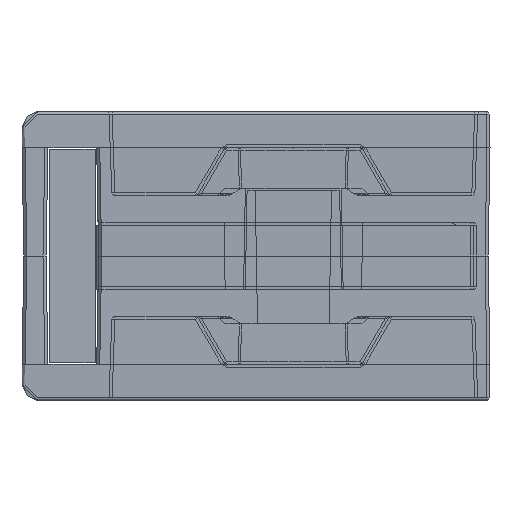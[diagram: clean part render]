
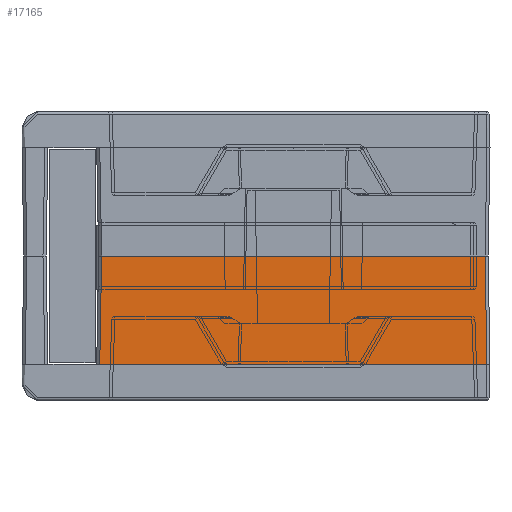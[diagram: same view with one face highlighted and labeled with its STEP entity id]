
A CAD part, front view. The second image highlights one B-rep face of the part: STEP entity #17165.
In plain terms, the highlighted planar face has unit normal (0, -1, 0.018).
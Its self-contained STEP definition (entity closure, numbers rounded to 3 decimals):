
#8947 = FACE_OUTER_BOUND ( 'NONE', #19145, .T. ) ;
#10275 = AXIS2_PLACEMENT_3D ( 'NONE', #24786, #24792, #24793 ) ;
#17165 = ADVANCED_FACE ( 'NONE', ( #8947 ), #24783, .T. ) ;
#19145 = EDGE_LOOP ( 'NONE', ( #25653, #25655, #25657, #25659 ) ) ;
#23288 = VERTEX_POINT ( 'NONE', #38833 ) ;
#23289 = VERTEX_POINT ( 'NONE', #38834 ) ;
#23290 = VERTEX_POINT ( 'NONE', #38835 ) ;
#23291 = VERTEX_POINT ( 'NONE', #38836 ) ;
#24783 = PLANE ( 'NONE',  #10275 ) ;
#24786 = CARTESIAN_POINT ( 'NONE',  ( -16.1, -26.75, 2.4 ) ) ;
#24792 = DIRECTION ( 'NONE',  ( 0., -1., 0.017 ) ) ;
#24793 = DIRECTION ( 'NONE',  ( 0., -0.017, -1. ) ) ;
#25653 = ORIENTED_EDGE ( 'NONE', *, *, #28456, .F. ) ;
#25655 = ORIENTED_EDGE ( 'NONE', *, *, #28455, .T. ) ;
#25657 = ORIENTED_EDGE ( 'NONE', *, *, #28440, .F. ) ;
#25659 = ORIENTED_EDGE ( 'NONE', *, *, #28458, .T. ) ;
#28440 = EDGE_CURVE ( 'NONE', #23291, #23290, #39573, .T. ) ;
#28455 = EDGE_CURVE ( 'NONE', #23288, #23290, #39576, .T. ) ;
#28456 = EDGE_CURVE ( 'NONE', #23288, #23289, #39578, .T. ) ;
#28458 = EDGE_CURVE ( 'NONE', #23291, #23289, #39595, .T. ) ;
#38833 = CARTESIAN_POINT ( 'NONE',  ( -12.576, -26.626, 9.5 ) ) ;
#38834 = CARTESIAN_POINT ( 'NONE',  ( 12.576, -26.626, 9.5 ) ) ;
#38835 = CARTESIAN_POINT ( 'NONE',  ( -12.7, -26.75, 2.4 ) ) ;
#38836 = CARTESIAN_POINT ( 'NONE',  ( 12.7, -26.75, 2.4 ) ) ;
#39396 = CARTESIAN_POINT ( 'NONE',  ( -16.1, -26.75, 2.4 ) ) ;
#39397 = DIRECTION ( 'NONE',  ( -1., 0., 0. ) ) ;
#39406 = DIRECTION ( 'NONE',  ( -0.017, -0.017, -1. ) ) ;
#39409 = CARTESIAN_POINT ( 'NONE',  ( -12.701, -26.751, 2.341 ) ) ;
#39573 = LINE ( 'NONE', #39396, #39574 ) ;
#39574 = VECTOR ( 'NONE', #39397, 1000. ) ;
#39576 = LINE ( 'NONE', #39409, #39591 ) ;
#39578 = LINE ( 'NONE', #40500, #39593 ) ;
#39591 = VECTOR ( 'NONE', #39406, 1000. ) ;
#39593 = VECTOR ( 'NONE', #40502, 1000. ) ;
#39595 = LINE ( 'NONE', #40503, #39596 ) ;
#39596 = VECTOR ( 'NONE', #40504, 1000. ) ;
#40500 = CARTESIAN_POINT ( 'NONE',  ( -16.1, -26.626, 9.5 ) ) ;
#40502 = DIRECTION ( 'NONE',  ( 1., 0., 0. ) ) ;
#40503 = CARTESIAN_POINT ( 'NONE',  ( 12.691, -26.741, 2.902 ) ) ;
#40504 = DIRECTION ( 'NONE',  ( -0.017, 0.017, 1. ) ) ;
